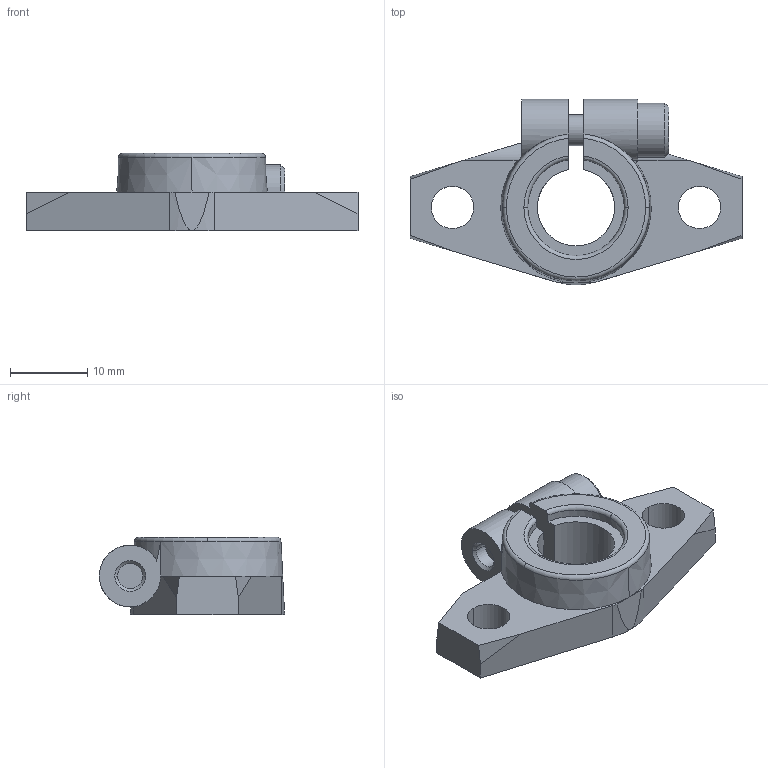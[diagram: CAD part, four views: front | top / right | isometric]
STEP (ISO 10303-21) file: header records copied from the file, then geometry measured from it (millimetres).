
FILE_DESCRIPTION (( 'STEP AP214' ), '1' );
FILE_NAME ('2.7119 Akselin päätykiinnike SHF10.STEP', '2024-06-04T12:17:22', ( '' ), ( '' ), 'SwSTEP 2.0', 'SolidWorks 2024', '' );
FILE_SCHEMA (( 'AUTOMOTIVE_DESIGN' ));
Length unit declared in the file: millimetre
Products named in the file (1): 2.7119 Akselin päätykiinnike SHF10
Bounding box: 43 x 24 x 10 mm (x, y, z)
Volume: 3927 mm3; surface area: 2649.1 mm2
Topology: 1 solids, 1 shells, 80 faces, 212 edges, 137 vertices
Faces by surface type: plane 39, cylinder 26, torus 9, cone 6
Entity records: 2606 total; most frequent: CARTESIAN_POINT 576, DIRECTION 425, ORIENTED_EDGE 424, EDGE_CURVE 212, AXIS2_PLACEMENT_3D 157, VERTEX_POINT 137, VECTOR 111, LINE 111
